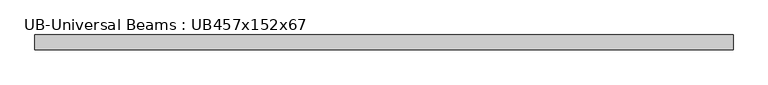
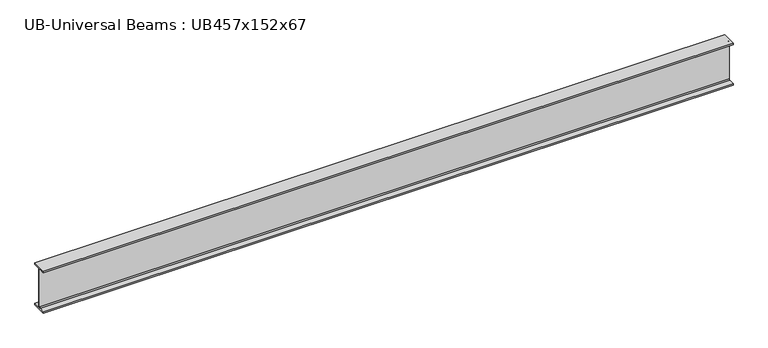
"""IFC4 building model written with IfcOpenShell, lengths in millimetres: beam geometry, UB-Universal Beams : UB457x152x67."""

from ifc_helpers import new_model, si_unit, point, frame, frame_2d, origin, place, context, project, spatial, polyline, circle_curve, trimmed, segment, composite_curve, outline, extrude, source, transform, mapped, element, save


def ub_universal_beams_ub457x152x67_9aa03224(model_context):
    return source(origin(), model_context, "Body", "SweptSolid", [
        extrude(outline(composite_curve([segment(polyline([(76.9, -214.0), (76.9, -229.0), (-76.9, -229.0), (-76.9, -214.0), (-14.7, -214.0)]), True, "CONTINUOUS"), segment(trimmed(circle_curve(frame_2d((-14.7, -203.8)), 10.2), [point((-14.7, -214.0))], [point((-4.5, -203.8))], True, "CARTESIAN"), True, "CONTINUOUS"), segment(polyline([(-4.5, -203.8), (-4.5, 203.8)]), True, "CONTINUOUS"), segment(trimmed(circle_curve(frame_2d((-14.7, 203.8)), 10.2), [point((-4.5, 203.8))], [point((-14.7, 214.0))], True, "CARTESIAN"), True, "CONTINUOUS"), segment(polyline([(-14.7, 214.0), (-76.9, 214.0), (-76.9, 229.0), (76.9, 229.0), (76.9, 214.0), (14.7, 214.0)]), True, "CONTINUOUS"), segment(trimmed(circle_curve(frame_2d((14.7, 203.8)), 10.2), [point((14.7, 214.0))], [point((4.5, 203.8))], True, "CARTESIAN"), True, "CONTINUOUS"), segment(polyline([(4.5, 203.8), (4.5, -203.8)]), True, "CONTINUOUS"), segment(trimmed(circle_curve(frame_2d((14.7, -203.8)), 10.2), [point((4.5, -203.8))], [point((14.7, -214.0))], True, "CARTESIAN"), True, "CONTINUOUS"), segment(polyline([(14.7, -214.0), (76.9, -214.0)]), True, "CONTINUOUS")], self_intersect=False)), frame((-3579.8, 0.0, 0.0), z_axis=(1.0, 0.0, 0.0), x_axis=(0.0, 1.0, 0.0)), (0.0, 0.0, 1.0), 7159.6),
    ])


if __name__ == "__main__":
    model = new_model("IFC4")
    model_context = context("Model", 3, world=origin())
    ifc_project = project(units=[si_unit("LENGTHUNIT", "METRE", prefix="MILLI")], contexts=[model_context])
    site = spatial("IfcSite", under=ifc_project)
    building = spatial("IfcBuilding", under=site)
    placement = place(None, origin())
    ub_universal_beams_ub457x152x67_shape = ub_universal_beams_ub457x152x67_9aa03224(model_context)
    element("IfcBeam", 1, ObjectType="UB-Universal Beams : UB457x152x67", at=placement, inside=building, context=model_context, shape_type="MappedRepresentation", body=[
        mapped(ub_universal_beams_ub457x152x67_shape, transform((0.0, 0.0, 0.0), x_axis=(1.0, 0.0, 0.0), y_axis=(0.0, 1.0, 0.0), z_axis=(0.0, 0.0, 1.0))),
    ])
    save(model, "model.ifc")
